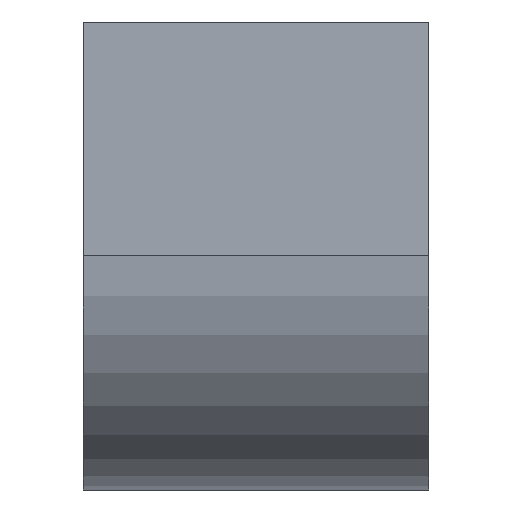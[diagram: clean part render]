
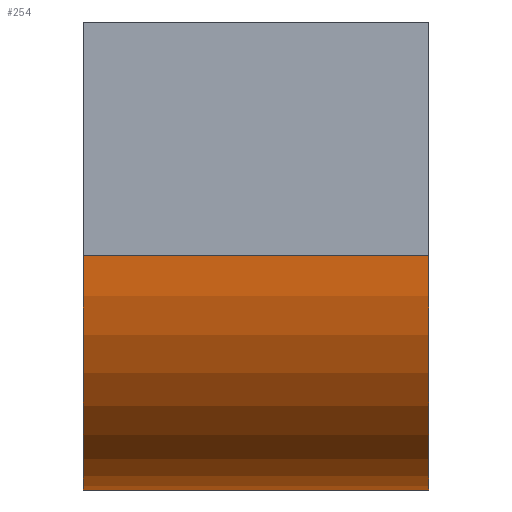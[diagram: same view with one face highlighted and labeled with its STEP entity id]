
A CAD part, left-side view. The second image highlights one B-rep face of the part: STEP entity #254.
In plain terms, the highlighted cylindrical face has radius 9.207 mm (diameter 18.415 mm), a partial arc.
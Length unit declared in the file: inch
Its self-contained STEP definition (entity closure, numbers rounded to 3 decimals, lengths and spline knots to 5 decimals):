
#44 = VECTOR ( 'NONE', #545, 39.37008 ) ;
#51 = VECTOR ( 'NONE', #150, 39.37008 ) ;
#63 = CARTESIAN_POINT ( 'NONE',  ( -0.5745, 0.433, -0.3625 ) ) ;
#70 = VERTEX_POINT ( 'NONE', #147 ) ;
#116 = DIRECTION ( 'NONE',  ( 1., 0., 0. ) ) ;
#120 = FACE_OUTER_BOUND ( 'NONE', #364, .T. ) ;
#123 = DIRECTION ( 'NONE',  ( 0., -1., 0. ) ) ;
#132 = CARTESIAN_POINT ( 'NONE',  ( -0.937, -0.1, 0. ) ) ;
#147 = CARTESIAN_POINT ( 'NONE',  ( -0.5745, -0.1, -0.3625 ) ) ;
#150 = DIRECTION ( 'NONE',  ( 0., -1., 0. ) ) ;
#158 = CARTESIAN_POINT ( 'NONE',  ( -0.5745, 0.433, 0. ) ) ;
#160 = EDGE_CURVE ( 'NONE', #209, #70, #201, .T. ) ;
#172 = DIRECTION ( 'NONE',  ( 0., 0., -1. ) ) ;
#178 = CARTESIAN_POINT ( 'NONE',  ( -0.937, 0.433, 0. ) ) ;
#201 = LINE ( 'NONE', #591, #51 ) ;
#209 = VERTEX_POINT ( 'NONE', #63 ) ;
#221 = ORIENTED_EDGE ( 'NONE', *, *, #160, .T. ) ;
#251 = CARTESIAN_POINT ( 'NONE',  ( -0.5745, 0.433, 0. ) ) ;
#254 = ADVANCED_FACE ( 'NONE', ( #120 ), #533, .T. ) ;
#257 = EDGE_CURVE ( 'NONE', #209, #388, #487, .T. ) ;
#270 = CARTESIAN_POINT ( 'NONE',  ( -0.937, 0.433, 0. ) ) ;
#286 = ORIENTED_EDGE ( 'NONE', *, *, #481, .F. ) ;
#313 = VERTEX_POINT ( 'NONE', #132 ) ;
#314 = AXIS2_PLACEMENT_3D ( 'NONE', #158, #345, #116 ) ;
#320 = ORIENTED_EDGE ( 'NONE', *, *, #431, .F. ) ;
#339 = AXIS2_PLACEMENT_3D ( 'NONE', #353, #123, #172 ) ;
#345 = DIRECTION ( 'NONE',  ( 0., 1., 0. ) ) ;
#353 = CARTESIAN_POINT ( 'NONE',  ( -0.5745, -0.1, 0. ) ) ;
#364 = EDGE_LOOP ( 'NONE', ( #221, #286, #320, #551 ) ) ;
#387 = DIRECTION ( 'NONE',  ( 0., -1., 0. ) ) ;
#388 = VERTEX_POINT ( 'NONE', #178 ) ;
#404 = AXIS2_PLACEMENT_3D ( 'NONE', #251, #387, #583 ) ;
#431 = EDGE_CURVE ( 'NONE', #388, #313, #497, .T. ) ;
#481 = EDGE_CURVE ( 'NONE', #313, #70, #529, .T. ) ;
#487 = CIRCLE ( 'NONE', #314, 0.3625 ) ;
#497 = LINE ( 'NONE', #270, #44 ) ;
#529 = CIRCLE ( 'NONE', #339, 0.3625 ) ;
#533 = CYLINDRICAL_SURFACE ( 'NONE', #404, 0.3625 ) ;
#545 = DIRECTION ( 'NONE',  ( 0., -1., 0. ) ) ;
#551 = ORIENTED_EDGE ( 'NONE', *, *, #257, .F. ) ;
#583 = DIRECTION ( 'NONE',  ( 0., 0., -1. ) ) ;
#591 = CARTESIAN_POINT ( 'NONE',  ( -0.5745, 0.433, -0.3625 ) ) ;
